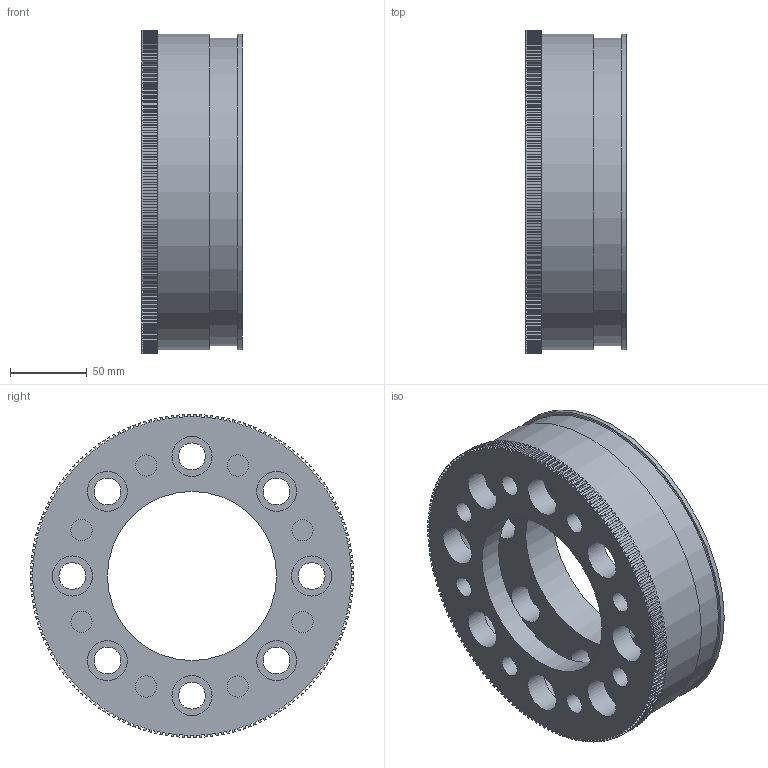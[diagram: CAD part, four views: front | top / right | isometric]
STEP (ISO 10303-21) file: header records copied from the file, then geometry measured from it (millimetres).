
FILE_DESCRIPTION(/* description */ (''),/* implementation_level */ '2;1');
FILE_NAME(/* name */ 'F:\Sensorik\Standard_Messflansche\06_3000_15000_Nm\RF-Ø205x65_LKØ155,5_8xM16\Vertrieb\RF-Ø205_V.stp',/* time_stamp */ '2013-10-30T08:32:50+01:00',/* author */ ('Lander'),/* organization */ (''),/* preprocessor_version */ 'ST-DEVELOPER v15.2',/* originating_system */ 'Autodesk Inventor 2014',/* authorisation */ '');
FILE_SCHEMA (('AUTOMOTIVE_DESIGN { 1 0 10303 214 3 1 1 }'));
Length unit declared in the file: millimetre
Products named in the file (1): RF-Ø205_Freigabemodell
Bounding box: 65 x 209.99 x 209.99 mm (x, y, z)
Volume: 834920.4 mm3; surface area: 184589.3 mm2
Topology: 1 solids, 1 shells, 775 faces, 2304 edges, 1542 vertices
Faces by surface type: plane 553, cylinder 218, torus 2, cone 2
Full cylindrical faces by diameter (mm): 13.835 x8, 17.5 x8, 26 x16, 110 x2, 195 x1, 200 x1, 205 x2
Entity records: 25575 total; most frequent: CARTESIAN_POINT 4532, ORIENTED_EDGE 4476, DIRECTION 4228, EDGE_CURVE 2238, LINE 1800, VECTOR 1800, VERTEX_POINT 1518, AXIS2_PLACEMENT_3D 1214
